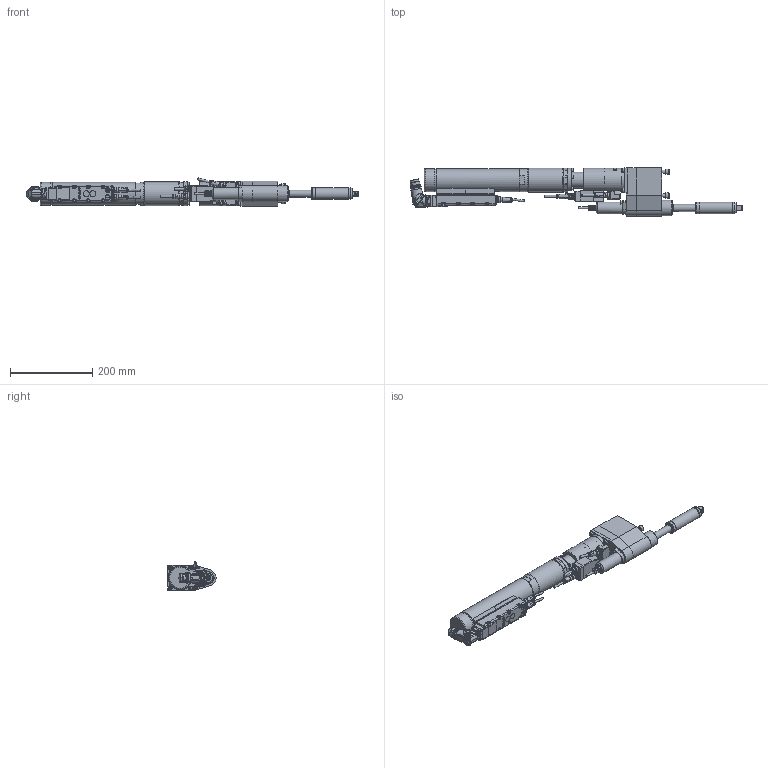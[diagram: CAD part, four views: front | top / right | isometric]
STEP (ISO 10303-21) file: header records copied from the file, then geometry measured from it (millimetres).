
FILE_DESCRIPTION (( 'STEP AP214' ), '1' );
FILE_NAME ('70082511_ESX213ZWRX140WX2AODX250-140.STEP', '2016-10-27T09:44:24', ( 'admin' ), ( '' ), 'SwSTEP 2.0', 'SolidWorks 2014', '' );
FILE_SCHEMA (( 'AUTOMOTIVE_DESIGN' ));
Length unit declared in the file: millimetre
Products named in the file (12): 70082361; 70082332; 70082304_ESX213_Standard_Winkel_2; 70082293_2; 70057493_Standard_winkel; 70057493_4; 70057493_3; 70057493_2; 70082304; 70082511_ESX213ZWRX140WX2AODX250-140; 7002049_3; 70082382
Assembly tree (12 placements, depth 4):
  70082511_ESX213ZWRX140WX2AODX250-140
    70082304_ESX213_Standard_Winkel_2
      70082304
      70057493_Standard_winkel
        70057493_2
        70057493_3
        70057493_4
      70082293_2  x2
    70082332
    70082361
    70082382
    7002049_3
Bounding box: 806.96 x 117.32 x 68.44 mm (x, y, z)
Volume: 2242041.2 mm3; surface area: 273679.3 mm2
Topology: 14 solids, 39 shells, 3471 faces, 8913 edges, 5770 vertices
Faces by surface type: plane 1722, cylinder 957, cone 428, bspline 271, torus 86, sphere 7
Full cylindrical faces by diameter (mm): 0.5 x14, 0.57 x14, 1.6 x1, 2 x3, 2.5 x1, 3 x4, 4.2 x11, 4.5 x1, 4.9 x6, 5 x50, 5.5 x17, 6 x2, 8 x3, 8.459 x2, 8.5 x7, 9 x8, 9.5 x1, 9.7 x1, 10 x4, 11.08 x3, 11.7 x1, 12 x2, 12.3 x3, 13 x4, 14 x7, 14.5 x2, 16.84 x1, 17.3 x1, 17.4 x1, 17.5 x2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
Entity records: 113984 total; most frequent: CARTESIAN_POINT 35882, ORIENTED_EDGE 16020, DIRECTION 14447, EDGE_CURVE 8010, VERTEX_POINT 5406, AXIS2_PLACEMENT_3D 5387, EDGE_LOOP 4028, VECTOR 3673
